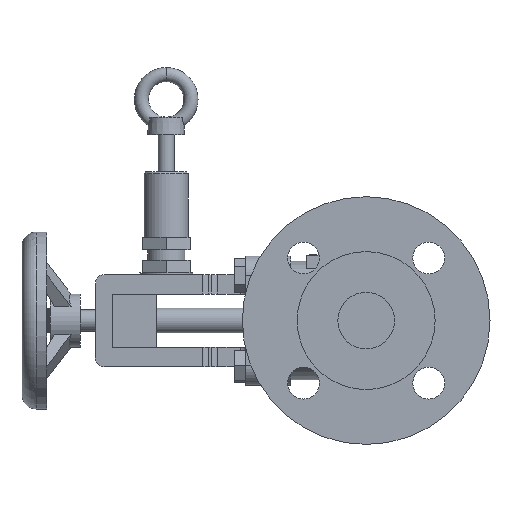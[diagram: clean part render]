
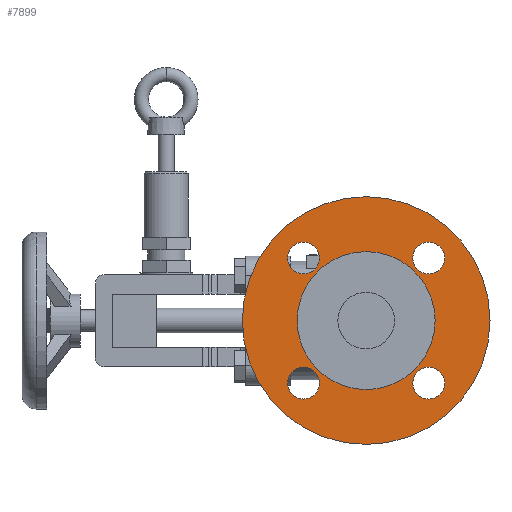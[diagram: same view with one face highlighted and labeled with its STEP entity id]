
A CAD part, left-side view. The second image highlights one B-rep face of the part: STEP entity #7899.
In plain terms, the highlighted planar face has unit normal (-1, 0, 0).
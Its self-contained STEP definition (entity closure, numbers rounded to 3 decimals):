
#304=FACE_BOUND('',#1437,.T.);
#305=FACE_BOUND('',#1438,.T.);
#306=FACE_BOUND('',#1439,.T.);
#307=FACE_BOUND('',#1440,.T.);
#308=FACE_BOUND('',#1441,.T.);
#595=PLANE('',#8424);
#991=FACE_OUTER_BOUND('',#1436,.T.);
#1436=EDGE_LOOP('',(#6955));
#1437=EDGE_LOOP('',(#6956));
#1438=EDGE_LOOP('',(#6957));
#1439=EDGE_LOOP('',(#6958));
#1440=EDGE_LOOP('',(#6959));
#1441=EDGE_LOOP('',(#6960));
#3064=CIRCLE('',#8355,70.);
#3067=CIRCLE('',#8359,9.);
#3069=CIRCLE('',#8362,9.);
#3071=CIRCLE('',#8365,9.);
#3073=CIRCLE('',#8368,9.);
#3074=CIRCLE('',#8370,39.);
#3748=VERTEX_POINT('',#13589);
#3751=VERTEX_POINT('',#13597);
#3753=VERTEX_POINT('',#13603);
#3755=VERTEX_POINT('',#13609);
#3757=VERTEX_POINT('',#13615);
#3758=VERTEX_POINT('',#13619);
#4778=EDGE_CURVE('',#3748,#3748,#3064,.T.);
#4783=EDGE_CURVE('',#3751,#3751,#3067,.T.);
#4786=EDGE_CURVE('',#3753,#3753,#3069,.T.);
#4789=EDGE_CURVE('',#3755,#3755,#3071,.T.);
#4792=EDGE_CURVE('',#3757,#3757,#3073,.T.);
#4793=EDGE_CURVE('',#3758,#3758,#3074,.T.);
#6955=ORIENTED_EDGE('',*,*,#4778,.F.);
#6956=ORIENTED_EDGE('',*,*,#4786,.F.);
#6957=ORIENTED_EDGE('',*,*,#4789,.F.);
#6958=ORIENTED_EDGE('',*,*,#4792,.F.);
#6959=ORIENTED_EDGE('',*,*,#4783,.F.);
#6960=ORIENTED_EDGE('',*,*,#4793,.F.);
#7899=ADVANCED_FACE('',(#991,#304,#305,#306,#307,#308),#595,.F.);
#8355=AXIS2_PLACEMENT_3D('',#13590,#9936,#9937);
#8359=AXIS2_PLACEMENT_3D('',#13599,#9946,#9947);
#8362=AXIS2_PLACEMENT_3D('',#13605,#9953,#9954);
#8365=AXIS2_PLACEMENT_3D('',#13611,#9960,#9961);
#8368=AXIS2_PLACEMENT_3D('',#13617,#9967,#9968);
#8370=AXIS2_PLACEMENT_3D('',#13620,#9971,#9972);
#8424=AXIS2_PLACEMENT_3D('',#13770,#10140,#10141);
#9936=DIRECTION('center_axis',(1.,0.,0.));
#9937=DIRECTION('ref_axis',(0.,0.,-1.));
#9946=DIRECTION('center_axis',(-1.,0.,0.));
#9947=DIRECTION('ref_axis',(0.,0.,-1.));
#9953=DIRECTION('center_axis',(-1.,0.,0.));
#9954=DIRECTION('ref_axis',(0.,0.,-1.));
#9960=DIRECTION('center_axis',(-1.,0.,0.));
#9961=DIRECTION('ref_axis',(0.,0.,-1.));
#9967=DIRECTION('center_axis',(-1.,0.,0.));
#9968=DIRECTION('ref_axis',(0.,0.,-1.));
#9971=DIRECTION('center_axis',(-1.,0.,0.));
#9972=DIRECTION('ref_axis',(0.,1.,0.));
#10140=DIRECTION('center_axis',(1.,0.,0.));
#10141=DIRECTION('ref_axis',(0.,0.,-1.));
#13589=CARTESIAN_POINT('',(-85.961,-66.362,33.5));
#13590=CARTESIAN_POINT('Origin',(-85.961,-66.362,-36.5));
#13597=CARTESIAN_POINT('',(-85.961,-31.007,-62.855));
#13599=CARTESIAN_POINT('Origin',(-85.961,-31.007,-71.855));
#13603=CARTESIAN_POINT('',(-85.961,-101.718,-62.855));
#13605=CARTESIAN_POINT('Origin',(-85.961,-101.718,-71.855));
#13609=CARTESIAN_POINT('',(-85.961,-31.007,7.855));
#13611=CARTESIAN_POINT('Origin',(-85.961,-31.007,-1.145));
#13615=CARTESIAN_POINT('',(-85.961,-101.718,7.855));
#13617=CARTESIAN_POINT('Origin',(-85.961,-101.718,-1.145));
#13619=CARTESIAN_POINT('',(-85.961,-105.362,-36.5));
#13620=CARTESIAN_POINT('Origin',(-85.961,-66.362,-36.5));
#13770=CARTESIAN_POINT('Origin',(-85.961,-11.862,-36.5));
